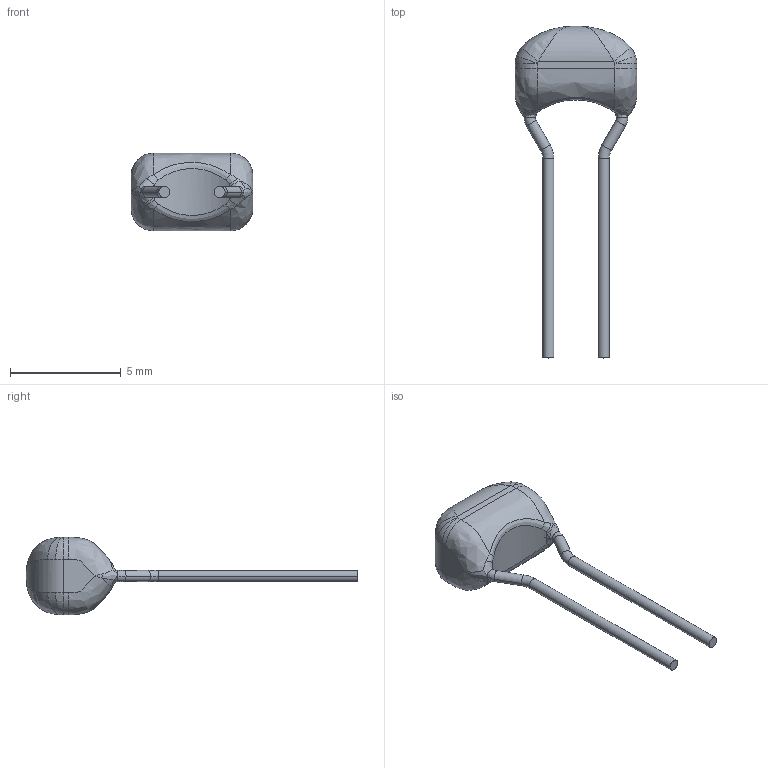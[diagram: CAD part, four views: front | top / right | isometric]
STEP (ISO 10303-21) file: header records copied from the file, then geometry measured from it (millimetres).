
FILE_DESCRIPTION (( 'STEP AP214' ), '1' );
FILE_NAME ('FG16X7R1H475KRT00.STEP', '2023-07-21T00:58:07', ( '' ), ( '' ), 'SwSTEP 2.0', 'SolidWorks 2021', '' );
FILE_SCHEMA (( 'AUTOMOTIVE_DESIGN' ));
Length unit declared in the file: millimetre
Products named in the file (1): FG16X7R1H475KRT00
Bounding box: 5.5 x 15 x 3.5 mm (x, y, z)
Volume: 56.9 mm3; surface area: 113.2 mm2
Topology: 3 solids, 3 shells, 79 faces, 174 edges, 91 vertices
Faces by surface type: bspline 40, cylinder 19, torus 12, plane 8
Entity records: 3927 total; most frequent: CARTESIAN_POINT 2475, ORIENTED_EDGE 328, DIRECTION 228, EDGE_CURVE 164, AXIS2_PLACEMENT_3D 100, VERTEX_POINT 91, ADVANCED_FACE 79, EDGE_LOOP 79
